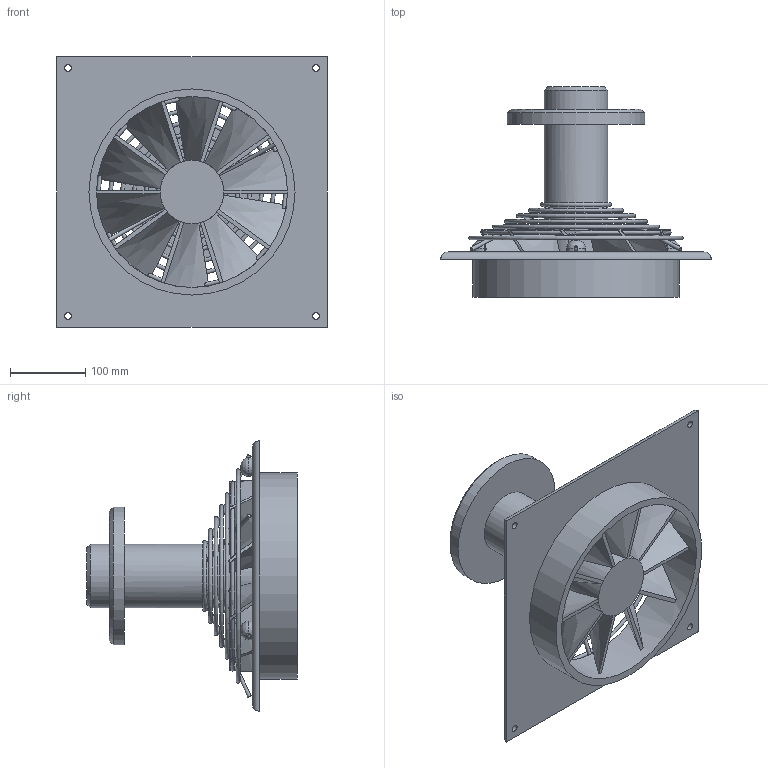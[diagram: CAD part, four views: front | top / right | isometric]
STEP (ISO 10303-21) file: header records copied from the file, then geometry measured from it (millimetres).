
FILE_DESCRIPTION(/* description */ (''),/* implementation_level */ '2;1');
FILE_NAME(/* name */ 'Z:\Output\HQW 250-2 EX-01094-023.stp',/* time_stamp */ '2017-05-04T17:11:42+02:00',/* author */ ('pareshmistry'),/* organization */ (''),/* preprocessor_version */ 'ST-DEVELOPER v16.5',/* originating_system */ 'Autodesk Inventor 2017',/* authorisation */ '');
FILE_SCHEMA (('AUTOMOTIVE_DESIGN { 1 0 10303 214 3 1 1 }'));
Length unit declared in the file: millimetre
Products named in the file (1): HQW EC 450
Bounding box: 360 x 280 x 360 mm (x, y, z)
Volume: 3491854.9 mm3; surface area: 616531.9 mm2
Topology: 7 solids, 7 shells, 139 faces, 412 edges, 273 vertices
Faces by surface type: bspline 53, plane 42, cylinder 26, torus 16, cone 2
Full cylindrical faces by diameter (mm): 5 x9, 9 x4, 25 x3, 84.667 x2, 182.55 x1, 254 x1, 274 x1
Entity records: 6146 total; most frequent: CARTESIAN_POINT 3036, ORIENTED_EDGE 694, DIRECTION 480, EDGE_CURVE 337, VERTEX_POINT 238, EDGE_LOOP 207, AXIS2_PLACEMENT_3D 171, LINE 138
